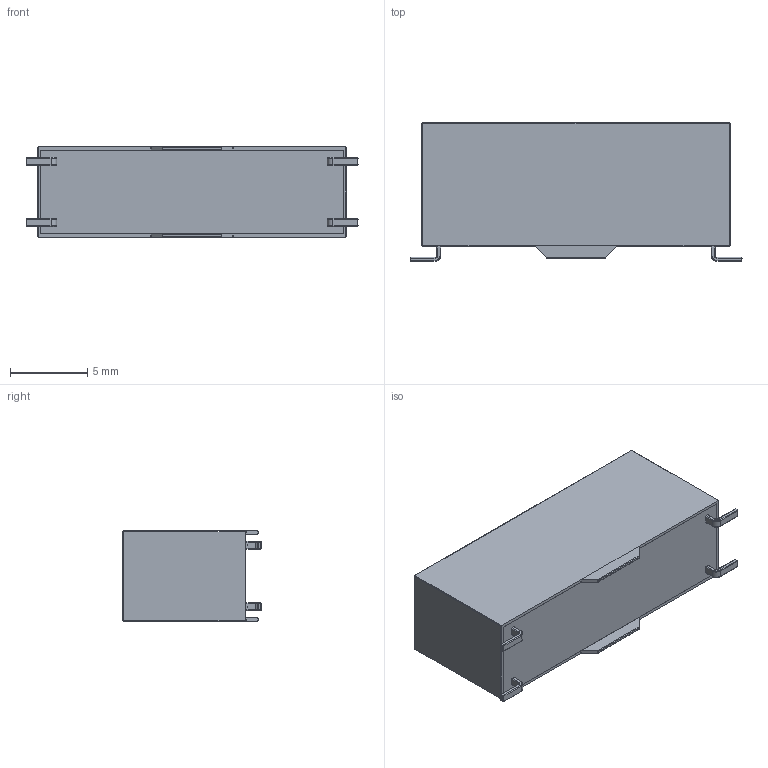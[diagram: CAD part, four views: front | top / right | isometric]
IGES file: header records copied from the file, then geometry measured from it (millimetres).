
Start section: SolidWorks IGES file using analytic representation for surfaces
Global section: file name: T:\Relays in Solidworks\Batch 1\200-1-A (wet).IGS; native system: SolidWorks 2009; preprocessor: SolidWorks 2009; author: alex.leming; date: 100629.132036; units: inch
Bounding box: 21.55 x 9 x 5.85 mm (x, y, z)
Surface area: 1671.3 mm2 (no closed solid volume)
Topology: 0 solids, 0 shells, 459 faces, 3393 edges, 3370 vertices
Faces by surface type: bspline 343, revolution 116
